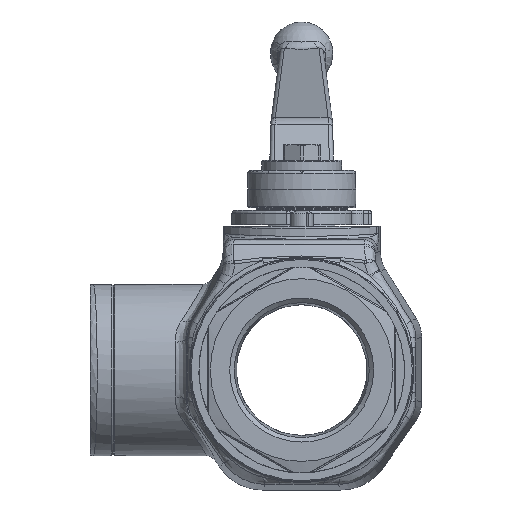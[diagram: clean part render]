
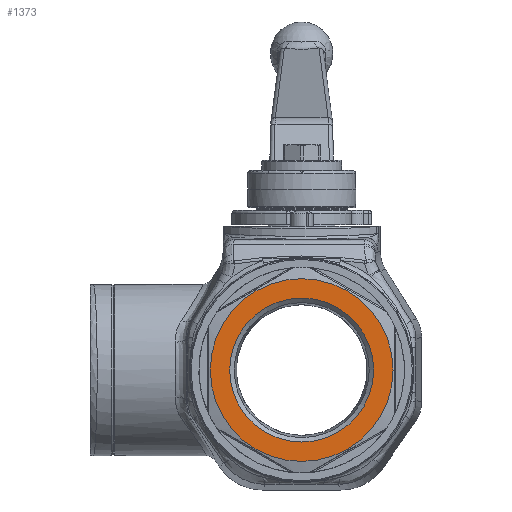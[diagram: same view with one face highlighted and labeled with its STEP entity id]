
A CAD part, front view. The second image highlights one B-rep face of the part: STEP entity #1373.
In plain terms, the highlighted planar face has unit normal (0, -1, 0) as drawn and (0, 1, 0) by its records, which use the part's own axes.
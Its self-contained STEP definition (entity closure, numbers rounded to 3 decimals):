
#1373 = ADVANCED_FACE( '', ( #2930, #2931 ), #2932, .T. );
#2930 = FACE_BOUND( '', #7398, .T. );
#2931 = FACE_OUTER_BOUND( '', #7399, .T. );
#2932 = PLANE( '', #7400 );
#7398 = EDGE_LOOP( '', ( #12541 ) );
#7399 = EDGE_LOOP( '', ( #12542 ) );
#7400 = AXIS2_PLACEMENT_3D( '', #12543, #12544, #12545 );
#12541 = ORIENTED_EDGE( '', *, *, #15611, .T. );
#12542 = ORIENTED_EDGE( '', *, *, #14805, .F. );
#12543 = CARTESIAN_POINT( '', ( 0., 18.5, 0. ) );
#12544 = DIRECTION( '', ( 0., 1., 0. ) );
#12545 = DIRECTION( '', ( 0., 0., 1. ) );
#14805 = EDGE_CURVE( '', #16794, #16794, #16795, .T. );
#15611 = EDGE_CURVE( '', #18123, #18123, #18124, .F. );
#16794 = VERTEX_POINT( '', #20080 );
#16795 = CIRCLE( '', #20081, 32. );
#18123 = VERTEX_POINT( '', #24966 );
#18124 = CIRCLE( '', #24967, 25.212 );
#20080 = CARTESIAN_POINT( '', ( 0., 18.5, -32. ) );
#20081 = AXIS2_PLACEMENT_3D( '', #29276, #29277, #29278 );
#24966 = CARTESIAN_POINT( '', ( 0., 18.5, 25.212 ) );
#24967 = AXIS2_PLACEMENT_3D( '', #30236, #30237, #30238 );
#29276 = CARTESIAN_POINT( '', ( 0., 18.5, 0. ) );
#29277 = DIRECTION( '', ( 0., -1., 0. ) );
#29278 = DIRECTION( '', ( 0., 0., -1. ) );
#30236 = CARTESIAN_POINT( '', ( 0., 18.5, 0. ) );
#30237 = DIRECTION( '', ( 0., 1., 0. ) );
#30238 = DIRECTION( '', ( 0., 0., 1. ) );
